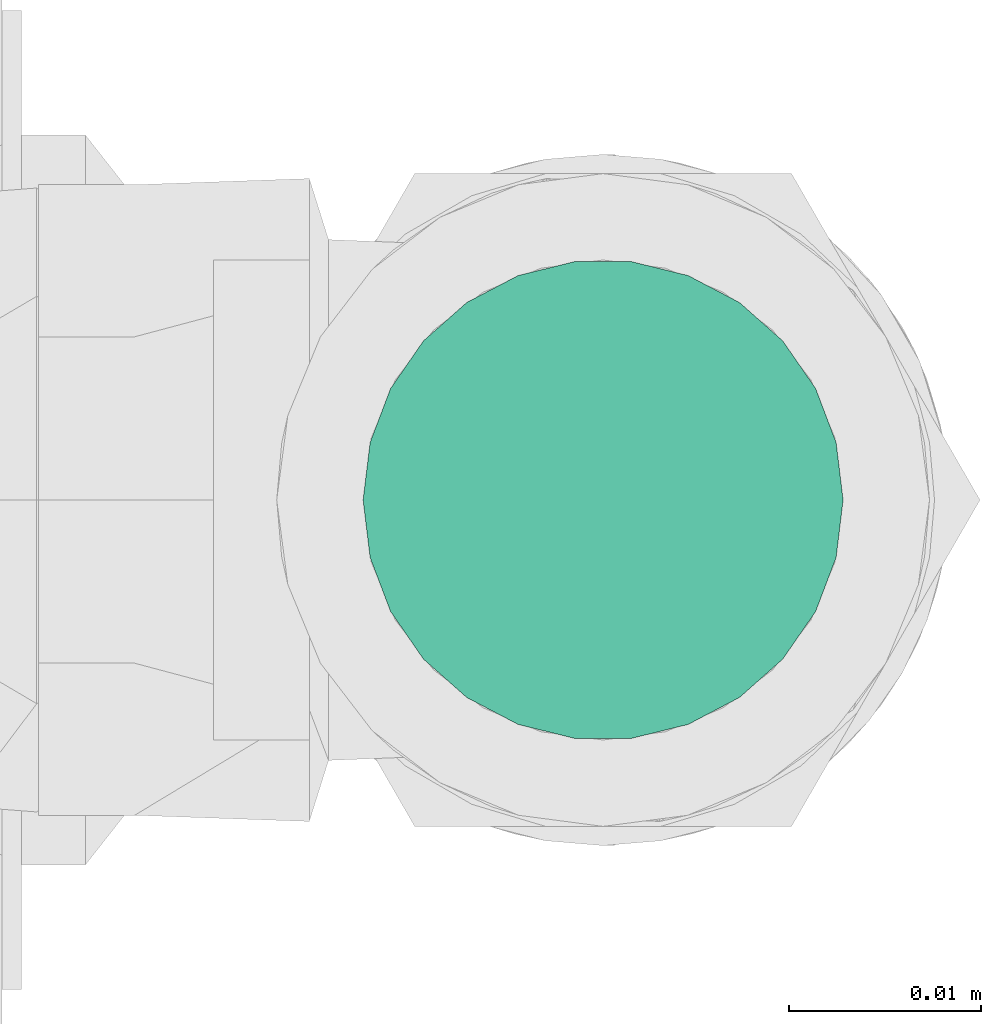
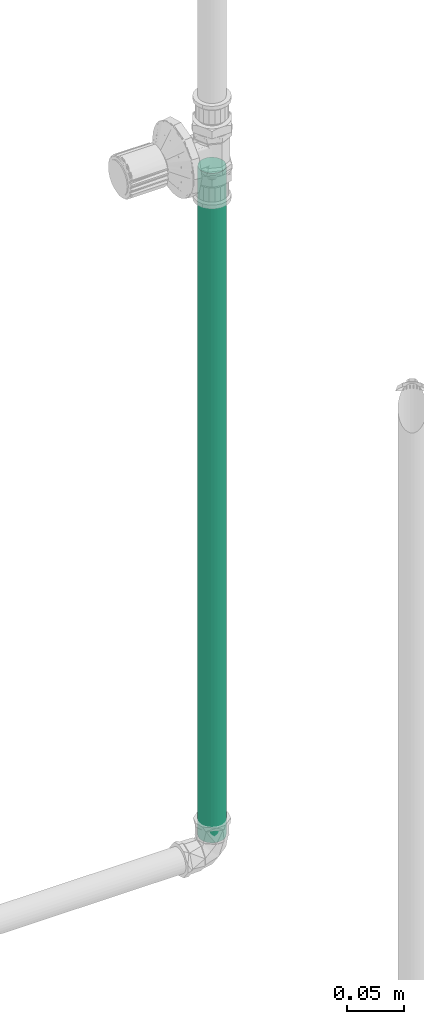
# One storey, part 300 of 589: 1 flow segment.
"""IFC2X3 building model written with IfcOpenShell, lengths in millimetres."""

from ifc_helpers import new_model, entity, si_unit, converted_unit, derived_unit, direction, frame, origin, origin_2d_with_axis, place, context, subcontext, project, spatial, circle, extrude, type_object, element, save


model = new_model("IFC2X3")

# Units and contexts
model_context = context("Model", 3, precision=0.01, world=origin(), true_north=direction((6.123031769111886e-17, 1.0)))
body_context = subcontext(model_context, "Body", "Model", "MODEL_VIEW")
ifc_project = project(units=[si_unit("LENGTHUNIT", "METRE", prefix="MILLI"), si_unit("AREAUNIT", "SQUARE_METRE"), si_unit("VOLUMEUNIT", "CUBIC_METRE"), converted_unit("PLANEANGLEUNIT", "DEGREE", entity("IfcRatioMeasure", 0.017453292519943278), si_unit("PLANEANGLEUNIT", "RADIAN"), dimensions=[0, 0, 0, 0, 0, 0, 0]), si_unit("MASSUNIT", "GRAM", prefix="KILO"), derived_unit("MASSDENSITYUNIT", [(si_unit("MASSUNIT", "GRAM", prefix="KILO"), 1), (si_unit("LENGTHUNIT", "METRE"), -3)]), derived_unit("IONCONCENTRATIONUNIT", [(si_unit("MASSUNIT", "GRAM", prefix="KILO"), 1), (si_unit("LENGTHUNIT", "METRE"), -3)]), derived_unit("MOMENTOFINERTIAUNIT", [(si_unit("LENGTHUNIT", "METRE"), 4)]), si_unit("TIMEUNIT", "SECOND"), si_unit("FREQUENCYUNIT", "HERTZ"), si_unit("THERMODYNAMICTEMPERATUREUNIT", "DEGREE_CELSIUS"), derived_unit("THERMALTRANSMITTANCEUNIT", [(si_unit("MASSUNIT", "GRAM", prefix="KILO"), 1), (si_unit("THERMODYNAMICTEMPERATUREUNIT", "KELVIN"), -1), (si_unit("TIMEUNIT", "SECOND"), -3)]), derived_unit("THERMALCONDUCTANCEUNIT", [(si_unit("MASSUNIT", "GRAM", prefix="KILO"), 1), (si_unit("THERMODYNAMICTEMPERATUREUNIT", "KELVIN"), -1), (si_unit("TIMEUNIT", "SECOND"), -3), (si_unit("LENGTHUNIT", "METRE"), 1)]), derived_unit("VOLUMETRICFLOWRATEUNIT", [(si_unit("LENGTHUNIT", "METRE"), 3), (si_unit("TIMEUNIT", "SECOND"), -1)]), derived_unit("MASSFLOWRATEUNIT", [(si_unit("MASSUNIT", "GRAM", prefix="KILO"), 1), (si_unit("TIMEUNIT", "SECOND"), -1)]), derived_unit("ROTATIONALFREQUENCYUNIT", [(si_unit("TIMEUNIT", "SECOND"), -1)]), si_unit("ELECTRICCURRENTUNIT", "AMPERE"), si_unit("ELECTRICVOLTAGEUNIT", "VOLT"), si_unit("POWERUNIT", "WATT"), si_unit("FORCEUNIT", "NEWTON", prefix="KILO"), si_unit("ILLUMINANCEUNIT", "LUX"), si_unit("LUMINOUSFLUXUNIT", "LUMEN"), si_unit("LUMINOUSINTENSITYUNIT", "CANDELA"), derived_unit("USERDEFINED", [(si_unit("MASSUNIT", "GRAM", prefix="KILO"), -1), (si_unit("LENGTHUNIT", "METRE"), -2), (si_unit("TIMEUNIT", "SECOND"), 3), (si_unit("LUMINOUSFLUXUNIT", "LUMEN"), 1)]), derived_unit("USERDEFINED", [(si_unit("MASSUNIT", "GRAM", prefix="KILO"), 1), (si_unit("TIMEUNIT", "SECOND"), -3), (si_unit("LENGTHUNIT", "METRE"), 3), (si_unit("ELECTRICCURRENTUNIT", "AMPERE"), -2)]), derived_unit("SOUNDPOWERUNIT", [(si_unit("MASSUNIT", "GRAM", prefix="KILO"), 1), (si_unit("TIMEUNIT", "SECOND"), -3), (si_unit("LENGTHUNIT", "METRE"), 2)]), derived_unit("SOUNDPRESSUREUNIT", [(si_unit("MASSUNIT", "GRAM", prefix="KILO"), 1), (si_unit("LENGTHUNIT", "METRE"), -1), (si_unit("TIMEUNIT", "SECOND"), -2)]), derived_unit("LINEARVELOCITYUNIT", [(si_unit("LENGTHUNIT", "METRE"), 1), (si_unit("TIMEUNIT", "SECOND"), -1)]), si_unit("PRESSUREUNIT", "PASCAL"), derived_unit("USERDEFINED", [(si_unit("MASSUNIT", "GRAM", prefix="KILO"), 1), (si_unit("LENGTHUNIT", "METRE"), -2), (si_unit("TIMEUNIT", "SECOND"), -2)]), derived_unit("LINEARFORCEUNIT", [(si_unit("MASSUNIT", "GRAM", prefix="KILO"), 1), (si_unit("TIMEUNIT", "SECOND"), -2)]), derived_unit("PLANARFORCEUNIT", [(si_unit("MASSUNIT", "GRAM", prefix="KILO"), 1), (si_unit("LENGTHUNIT", "METRE"), -1), (si_unit("TIMEUNIT", "SECOND"), -2)]), derived_unit("SPECIFICHEATCAPACITYUNIT", [(si_unit("THERMODYNAMICTEMPERATUREUNIT", "KELVIN"), -1), (si_unit("LENGTHUNIT", "METRE"), 2), (si_unit("TIMEUNIT", "SECOND"), -2)]), derived_unit("HEATINGVALUEUNIT", [(si_unit("LENGTHUNIT", "METRE"), 2), (si_unit("TIMEUNIT", "SECOND"), -2)]), derived_unit("VAPORPERMEABILITYUNIT", [(si_unit("LENGTHUNIT", "METRE"), -1), (si_unit("TIMEUNIT", "SECOND"), 1)]), derived_unit("DYNAMICVISCOSITYUNIT", [(si_unit("MASSUNIT", "GRAM", prefix="KILO"), 1), (si_unit("TIMEUNIT", "SECOND"), -1), (si_unit("LENGTHUNIT", "METRE"), -1)]), derived_unit("THERMALEXPANSIONCOEFFICIENTUNIT", [(si_unit("THERMODYNAMICTEMPERATUREUNIT", "KELVIN"), -1)]), derived_unit("MODULUSOFELASTICITYUNIT", [(si_unit("MASSUNIT", "GRAM", prefix="KILO"), 1), (si_unit("LENGTHUNIT", "METRE"), -1), (si_unit("TIMEUNIT", "SECOND"), -2)]), derived_unit("ISOTHERMALMOISTURECAPACITYUNIT", [(si_unit("LENGTHUNIT", "METRE"), 3), (si_unit("MASSUNIT", "GRAM", prefix="KILO"), -1)]), derived_unit("MOISTUREDIFFUSIVITYUNIT", [(si_unit("TIMEUNIT", "SECOND"), -1), (si_unit("LENGTHUNIT", "METRE"), 2)])], contexts=[model_context])

# Site, building, storey
site_placement = place(None, origin())
site = spatial("IfcSite", under=ifc_project, at=site_placement, Name="Default", CompositionType="ELEMENT")
building_placement = place(site_placement, origin())
building = spatial("IfcBuilding", under=site, at=building_placement, CompositionType="ELEMENT")
storey_placement = place(building_placement, frame((0.0, 0.0, 100.0)))
storey = spatial("IfcBuildingStorey", under=building, at=storey_placement, Name="TÉRREO", CompositionType="ELEMENT", Elevation=100.0)

# Flow segment
pipe_segment_type = type_object("IfcPipeSegmentType", Name="Tipos de tubos:PVC Marrom Soldável", PredefinedType="NOTDEFINED")
flow_segment_placement = place(storey_placement, origin())
element("IfcFlowSegment", 1, at=flow_segment_placement, inside=storey, type_object=pipe_segment_type, Name="Tipos de tubos:PVC Marrom Soldável", ObjectType="Tipos de tubos:PVC Marrom Soldável", context=body_context, shape_type="SweptSolid", body=[
    extrude(circle(Radius=12.5, at=origin_2d_with_axis()), frame((22167.427950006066, 6394.222132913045, -234.6)), (0.0, 0.0, 1.0), 714.6),
])

save(model, "model.ifc")
